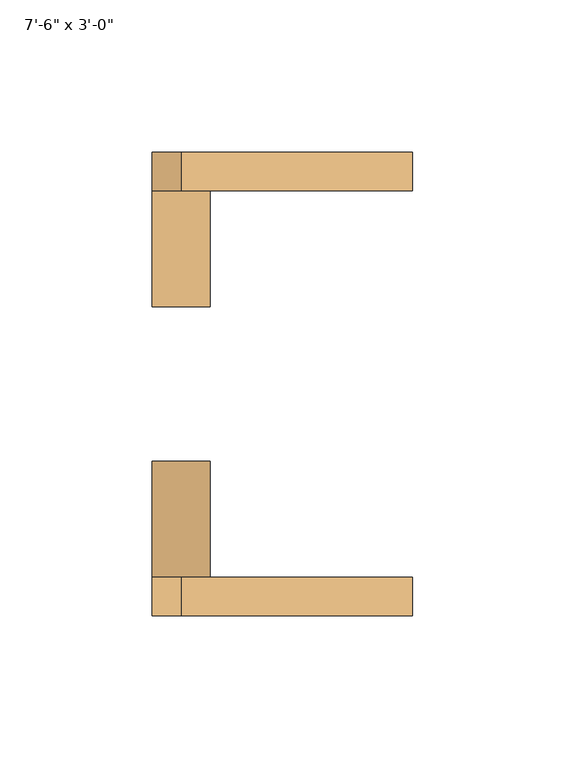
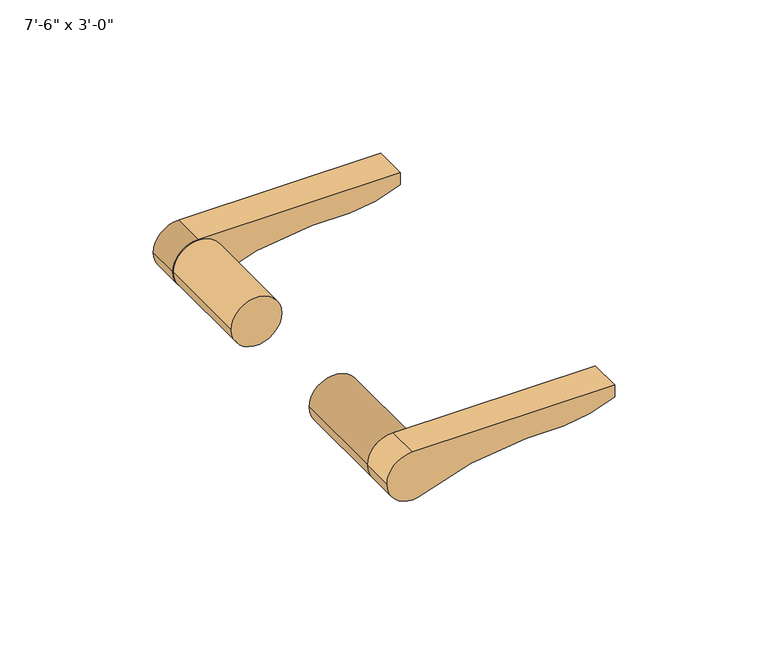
"""IFC4 building model written with IfcOpenShell, lengths in millimetres: door geometry."""

from ifc_helpers import new_model, si_unit, point, frame, frame_2d, origin, place, context, project, spatial, polyline, circle_curve, trimmed, segment, composite_curve, outline, extrude, source, transform, mapped, element, save


def door_7e50a88c(model_context):
    return source(origin(), model_context, "Body", "SweptSolid", [
        extrude(outline(composite_curve([segment(trimmed(circle_curve(frame_2d((1016.0, -393.7)), 9.525), [point((1016.0, -403.225))], [point((1006.7131627, -391.5833333))], False, "CARTESIAN"), True, "CONTINUOUS"), segment(trimmed(circle_curve(frame_2d((910.8226001, -348.2965958)), 105.2080873), [point((1006.7131627, -391.5833333))], [point((1016.0, -350.8375))], True, "CARTESIAN"), True, "CONTINUOUS"), segment(polyline([(1016.0, -350.8375), (1016.0, -336.6013442)]), True, "CONTINUOUS"), segment(trimmed(circle_curve(frame_2d((1066.7220571, -339.103389)), 50.7837307), [point((1016.0, -336.6013442))], [point((1020.7625, -317.5))], False, "CARTESIAN"), True, "CONTINUOUS"), segment(polyline([(1020.7625, -317.5), (1025.525, -317.5), (1025.525, -393.7)]), True, "CONTINUOUS"), segment(trimmed(circle_curve(frame_2d((1016.0, -393.7)), 9.525), [point((1025.525, -393.7))], [point((1016.0, -403.225))], False, "CARTESIAN"), True, "CONTINUOUS")], self_intersect=False)), frame((0.0, 38.1, 0.0), z_axis=(0.0, 1.0, 0.0), x_axis=(0.0, 0.0, 1.0)), (0.0, 0.0, 1.0), 12.7),
        extrude(outline(composite_curve([segment(trimmed(circle_curve(frame_2d((1016.0, -393.7)), 9.525), [point((1016.0, -403.225))], [point((1006.7131627, -391.5833333))], False, "CARTESIAN"), True, "CONTINUOUS"), segment(trimmed(circle_curve(frame_2d((910.8226001, -348.2965958)), 105.2080873), [point((1006.7131627, -391.5833333))], [point((1016.0, -350.8375))], True, "CARTESIAN"), True, "CONTINUOUS"), segment(polyline([(1016.0, -350.8375), (1016.0, -336.6013442)]), True, "CONTINUOUS"), segment(trimmed(circle_curve(frame_2d((1066.7220571, -339.103389)), 50.7837307), [point((1016.0, -336.6013442))], [point((1020.7625, -317.5))], False, "CARTESIAN"), True, "CONTINUOUS"), segment(polyline([(1020.7625, -317.5), (1025.525, -317.5), (1025.525, -393.7)]), True, "CONTINUOUS"), segment(trimmed(circle_curve(frame_2d((1016.0, -393.7)), 9.525), [point((1025.525, -393.7))], [point((1016.0, -403.225))], False, "CARTESIAN"), True, "CONTINUOUS")], self_intersect=False)), frame((0.0, -101.6, 0.0), z_axis=(0.0, 1.0, 0.0), x_axis=(0.0, 0.0, 1.0)), (0.0, 0.0, 1.0), 12.7),
        extrude(outline(composite_curve([segment(trimmed(circle_curve(frame_2d((1016.0, -393.7)), 9.525), [point((1016.0, -384.175))], [point((1016.0, -403.225))], False, "CARTESIAN"), True, "CONTINUOUS"), segment(trimmed(circle_curve(frame_2d((1016.0, -393.7)), 9.525), [point((1016.0, -403.225))], [point((1016.0, -384.175))], False, "CARTESIAN"), True, "CONTINUOUS")], self_intersect=False)), frame((0.0, -88.9, 0.0), z_axis=(0.0, 1.0, 0.0), x_axis=(0.0, 0.0, 1.0)), (0.0, 0.0, 1.0), 38.1),
        extrude(outline(composite_curve([segment(trimmed(circle_curve(frame_2d((1016.0, -393.7)), 9.525), [point((1016.0, -384.175))], [point((1016.0, -403.225))], False, "CARTESIAN"), True, "CONTINUOUS"), segment(trimmed(circle_curve(frame_2d((1016.0, -393.7)), 9.525), [point((1016.0, -403.225))], [point((1016.0, -384.175))], False, "CARTESIAN"), True, "CONTINUOUS")], self_intersect=False)), frame((0.0, 0.0, 0.0), z_axis=(0.0, 1.0, 0.0), x_axis=(0.0, 0.0, 1.0)), (0.0, 0.0, 1.0), 38.1),
    ])


if __name__ == "__main__":
    model = new_model("IFC4")
    model_context = context("Model", 3, world=origin())
    ifc_project = project(units=[si_unit("LENGTHUNIT", "METRE", prefix="MILLI")], contexts=[model_context])
    site = spatial("IfcSite", under=ifc_project)
    building = spatial("IfcBuilding", under=site)
    placement = place(None, origin())
    door_shape = door_7e50a88c(model_context)
    element("IfcDoor", 1, ObjectType="Planitar - Single Door_Swapper : 7'-6\" x 3'-0\"", at=placement, inside=building, context=model_context, shape_type="MappedRepresentation", body=[
        mapped(door_shape, transform((0.0, 0.0, 0.0), x_axis=(1.0, 0.0, 0.0), y_axis=(0.0, 1.0, 0.0), z_axis=(0.0, 0.0, 1.0))),
    ])
    save(model, "model.ifc")
